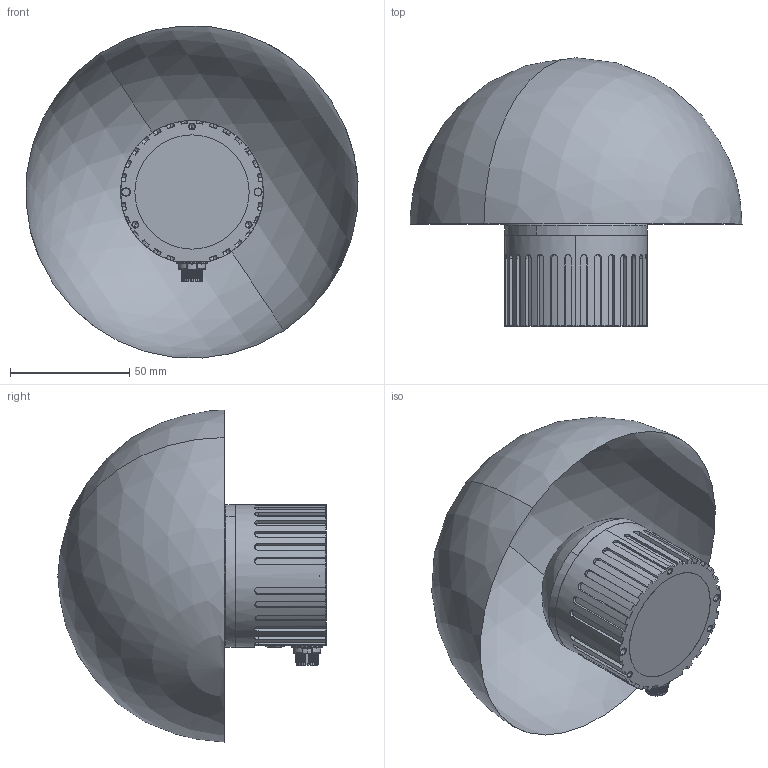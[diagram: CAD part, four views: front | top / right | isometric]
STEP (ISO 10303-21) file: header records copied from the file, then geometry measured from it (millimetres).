
FILE_DESCRIPTION (( 'STEP AP214' ), '1' );
FILE_NAME ('0350Íâ¿Ç+FOV.STEP', '2024-09-29T04:52:22', ( '' ), ( '' ), 'SwSTEP 2.0', 'SolidWorks 2019', '' );
FILE_SCHEMA (( 'AUTOMOTIVE_DESIGN' ));
Length unit declared in the file: millimetre
Products named in the file (33): 0-300_22_1; 0-700_17_1; M1001000_6_1; HOUSING02_48_1; RS-D103-0092-00_ｷﾀｻ､ﾕﾖ_ﾍ箙｢ｷﾀｻ､ﾕﾖ; 0350B1底座-logo上移_外发外壳; SOCKETNUT01_10_1; SOCKETH01_63_1; 20402-0136-00_芵ァ臚滅誘裔-2024-08-08-羲耀; O0001_8_1; RS-D103-0092-00_滅誘欶; 0350俋褲+FOV; 000_18-92456_1; 瑤脣; 0350B1菁釱-logo奻痄
Assembly tree (21 placements, depth 3):
  0-300_22_1
  0-700_17_1
  M1001000_6_1
  HOUSING02_48_1
  0-700_17_1
Bounding box: 139.44 x 112.72 x 139.44 mm (x, y, z)
Volume: 960.9 mm3; surface area: 58081.8 mm2
Topology: 17 solids, 34 shells, 1666 faces, 4214 edges, 2554 vertices
Faces by surface type: cylinder 554, bspline 551, plane 393, cone 163, sphere 5
Entity records: 78434 total; most frequent: CARTESIAN_POINT 43963, ORIENTED_EDGE 7456, DIRECTION 4899, EDGE_CURVE 3734, VERTEX_POINT 2327, AXIS2_PLACEMENT_3D 1958, EDGE_LOOP 1570, B_SPLINE_CURVE_WITH_KNOTS 1521
